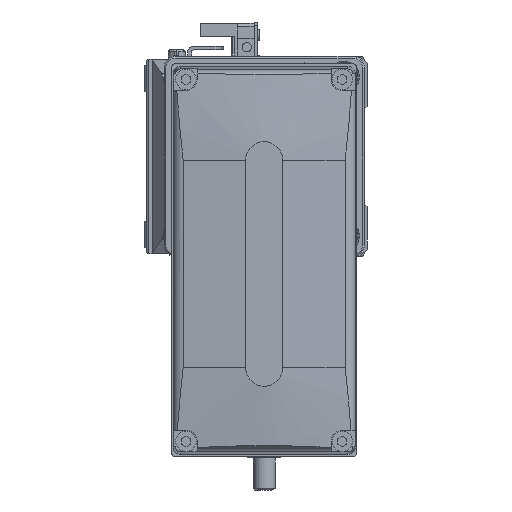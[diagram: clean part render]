
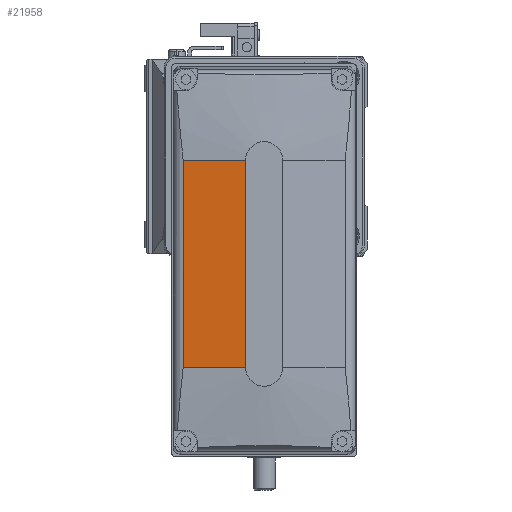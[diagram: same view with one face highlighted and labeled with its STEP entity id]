
A CAD part, left-side view. The second image highlights one B-rep face of the part: STEP entity #21958.
In plain terms, the highlighted planar face has unit normal (-0.996, 0.087, 0) as drawn and (-0.996, 0, -0.087) by its records, which use the part's own axes.
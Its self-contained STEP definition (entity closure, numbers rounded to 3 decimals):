
#1311 = LINE ( 'NONE', #17078, #14972 ) ;
#2171 = VECTOR ( 'NONE', #31882, 1000. ) ;
#2652 = EDGE_CURVE ( 'NONE', #24381, #21656, #1311, .T. ) ;
#2823 = ORIENTED_EDGE ( 'NONE', *, *, #2652, .F. ) ;
#3250 = CARTESIAN_POINT ( 'NONE',  ( -50., 128., -5. ) ) ;
#3273 = CARTESIAN_POINT ( 'NONE',  ( -50., 128., -5. ) ) ;
#4399 = ORIENTED_EDGE ( 'NONE', *, *, #32029, .F. ) ;
#4802 = DIRECTION ( 'NONE',  ( -0.087, 0., 0.996 ) ) ;
#5780 = AXIS2_PLACEMENT_3D ( 'NONE', #3250, #22926, #31295 ) ;
#8165 = CARTESIAN_POINT ( 'NONE',  ( -48.525, -28., -21.861 ) ) ;
#8592 = EDGE_CURVE ( 'NONE', #24381, #12113, #18777, .T. ) ;
#9592 = VECTOR ( 'NONE', #4802, 1000. ) ;
#12113 = VERTEX_POINT ( 'NONE', #18855 ) ;
#13163 = EDGE_CURVE ( 'NONE', #24195, #12113, #17114, .T. ) ;
#14621 = EDGE_LOOP ( 'NONE', ( #32231, #4399, #2823, #16915 ) ) ;
#14972 = VECTOR ( 'NONE', #22845, 1000. ) ;
#16915 = ORIENTED_EDGE ( 'NONE', *, *, #8592, .T. ) ;
#17078 = CARTESIAN_POINT ( 'NONE',  ( 43606.406, -28., -499000. ) ) ;
#17114 = LINE ( 'NONE', #24315, #9592 ) ;
#17895 = PLANE ( 'NONE',  #5780 ) ;
#18777 = LINE ( 'NONE', #3273, #26558 ) ;
#18855 = CARTESIAN_POINT ( 'NONE',  ( -50., 28., -5. ) ) ;
#18881 = CARTESIAN_POINT ( 'NONE',  ( -50., -28., -5. ) ) ;
#20126 = FACE_OUTER_BOUND ( 'NONE', #14621, .T. ) ;
#20344 = CARTESIAN_POINT ( 'NONE',  ( -48.525, 28., -21.861 ) ) ;
#21656 = VERTEX_POINT ( 'NONE', #8165 ) ;
#21958 = ADVANCED_FACE ( 'NONE', ( #20126 ), #17895, .T. ) ;
#22845 = DIRECTION ( 'NONE',  ( 0.087, 0., -0.996 ) ) ;
#22926 = DIRECTION ( 'NONE',  ( -0.996, 0., -0.087 ) ) ;
#23618 = CARTESIAN_POINT ( 'NONE',  ( -48.525, 128., -21.861 ) ) ;
#24195 = VERTEX_POINT ( 'NONE', #20344 ) ;
#24315 = CARTESIAN_POINT ( 'NONE',  ( 43606.406, 28., -499000. ) ) ;
#24381 = VERTEX_POINT ( 'NONE', #18881 ) ;
#26269 = LINE ( 'NONE', #23618, #2171 ) ;
#26558 = VECTOR ( 'NONE', #29487, 1000. ) ;
#29487 = DIRECTION ( 'NONE',  ( 0., 1., 0. ) ) ;
#31295 = DIRECTION ( 'NONE',  ( -0.087, 0., 0.996 ) ) ;
#31882 = DIRECTION ( 'NONE',  ( 0., 1., 0. ) ) ;
#32029 = EDGE_CURVE ( 'NONE', #21656, #24195, #26269, .T. ) ;
#32231 = ORIENTED_EDGE ( 'NONE', *, *, #13163, .F. ) ;
